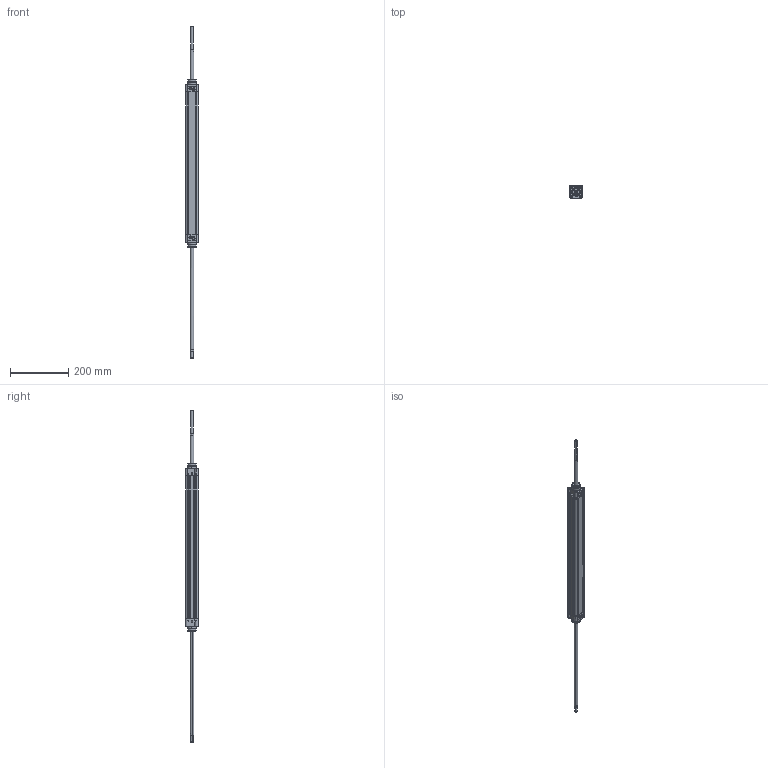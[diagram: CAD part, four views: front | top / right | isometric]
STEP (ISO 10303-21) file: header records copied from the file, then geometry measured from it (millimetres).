
FILE_DESCRIPTION (( 'STEP AP203' ), '1' );
FILE_NAME ('KDNC32X450CIFTMILLI-STROK AYARLI-CYLINDER.STEP', '2015-03-18T13:17:57', ( 'user' ), ( '' ), 'SwSTEP 2.0', 'SolidWorks 2013', '' );
FILE_SCHEMA (( 'CONFIG_CONTROL_DESIGN' ));
Length unit declared in the file: millimetre
Products named in the file (6): Piston Mili 32x450; KDNC 32x450 BORU; SAPLAMALI M尳 STROK AYARLI 32x450; KDNC32X450CIFTMILLI-STROK AYARLI-CYLINDER; 烰 KAPAK; ORTA PÝSTON ÇÝFT MÝLLÝ
Assembly tree (6 placements, depth 2):
  KDNC32X450CIFTMILLI-STROK AYARLI-CYLINDER
    烰 KAPAK  x2
    ORTA PÝSTON ÇÝFT MÝLLÝ
    Piston Mili 32x450
    KDNC 32x450 BORU
    SAPLAMALI M尳 STROK AYARLI 32x450
Bounding box: 44.45 x 44.65 x 1143 mm (x, y, z)
Volume: 627405.9 mm3; surface area: 290474.1 mm2
Topology: 8 solids, 10 shells, 805 faces, 2012 edges, 1262 vertices
Faces by surface type: cylinder 266, plane 249, cone 154, bspline 136
Entity records: 21571 total; most frequent: CARTESIAN_POINT 9031, ORIENTED_EDGE 2574, DIRECTION 2346, EDGE_CURVE 1287, AXIS2_PLACEMENT_3D 863, VERTEX_POINT 818, LINE 620, VECTOR 620
